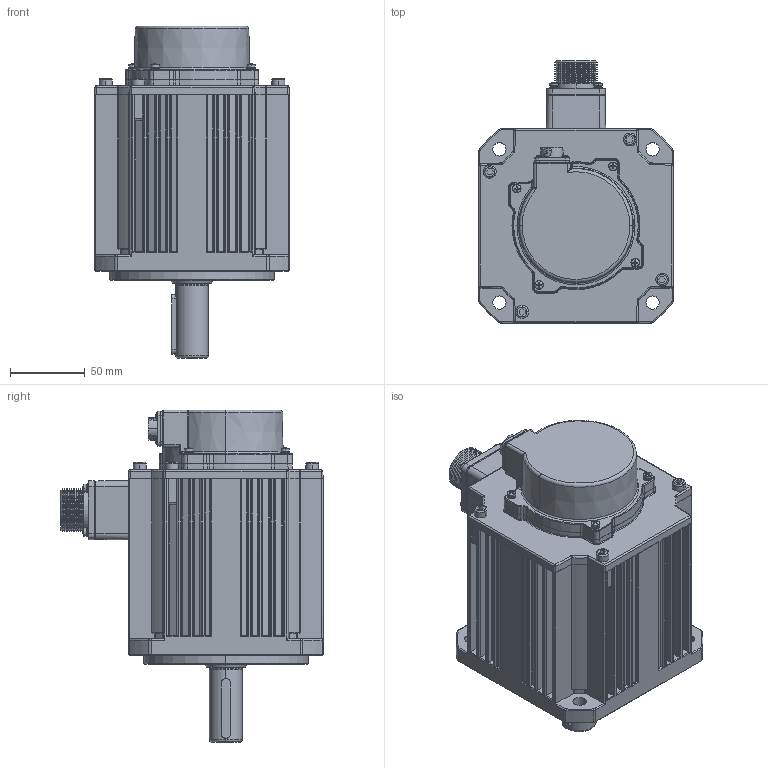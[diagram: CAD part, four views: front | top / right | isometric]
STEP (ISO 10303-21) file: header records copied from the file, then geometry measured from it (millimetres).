
FILE_DESCRIPTION (( 'STEP AP203' ), '1' );
FILE_NAME ('G3-130-11.46NM标准电机三维图.STEP', '2022-12-05T11:25:49', ( '微软用户' ), ( '微软中国' ), 'SwSTEP 2.0', 'SolidWorks 2016', '' );
FILE_SCHEMA (( 'CONFIG_CONTROL_DESIGN' ));
Products named in the file (1): G3-130-11.46NM标准电机三维图
Bounding box: 130 x 175.3 x 222 mm (x, y, z)
Volume: 660840.1 mm3; surface area: 304580.5 mm2
Topology: 26 solids, 26 shells, 3452 faces, 8826 edges, 5537 vertices
Faces by surface type: plane 1244, cylinder 855, bspline 536, cone 493, torus 228, sphere 96
Entity records: 123648 total; most frequent: CARTESIAN_POINT 43565, ORIENTED_EDGE 17416, DIRECTION 15731, EDGE_CURVE 8708, AXIS2_PLACEMENT_3D 5665, VERTEX_POINT 5505, LINE 4401, VECTOR 4401
